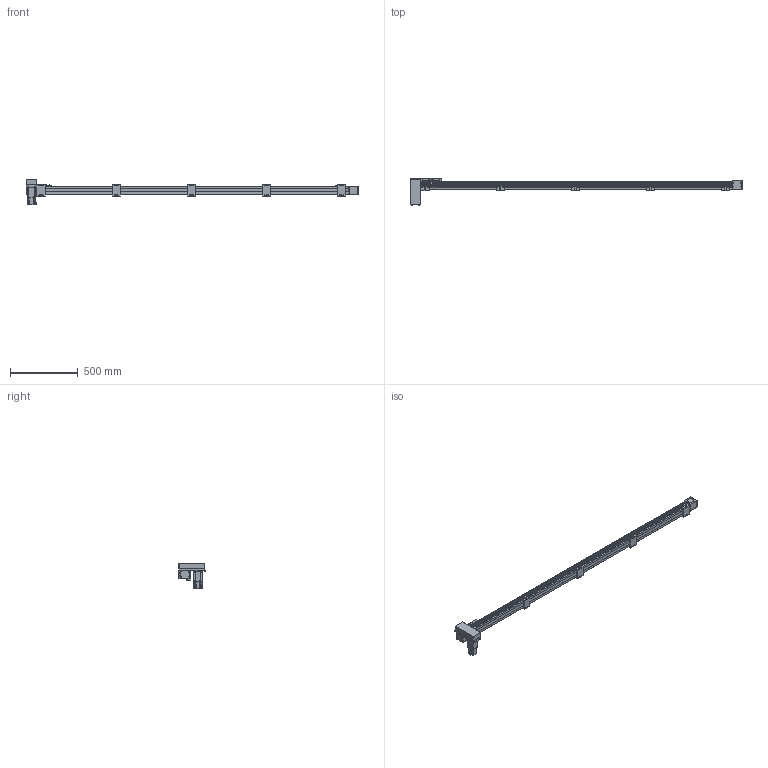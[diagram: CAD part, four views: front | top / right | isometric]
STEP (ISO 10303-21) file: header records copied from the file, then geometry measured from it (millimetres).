
FILE_DESCRIPTION(/* description */ ('STEP AP214'),/* implementation_level */ '2;1');
FILE_NAME(/* name */ 'SK60-P13-S2150-RD-T40-C1-N(0)',/* time_stamp */ '2023-04-06T04:56:44+02:00',/* author */ ('License CC BY-ND 4.0'),/* organization */ ('CADENAS'),/* preprocessor_version */ 'ST-DEVELOPER v19.3',/* originating_system */ 'PARTsolutions',/* authorisation */ ' ');
FILE_SCHEMA (('AUTOMOTIVE_DESIGN {1 0 10303 214 3 1 1}'));
Length unit declared in the file: millimetre
Products named in the file (10): SK60-P13-S2150-RD-T40-C1-N(0); PSC140-sensor; SK60-S450_seat; SK60-S450-BL-C1_slider; SK60_body3; SK60_body6; SK60-BL_body2; T40-p1; SK60-RD_fb; SK60-S2150-RD-C1_body
Assembly tree (19 placements, depth 2):
  SK60-P13-S2150-RD-T40-C1-N(0)
    PSC140-sensor  x3
    SK60-S450_seat  x5
    SK60-S450-BL-C1_slider
    SK60_body3  x3
    SK60_body6  x2
    SK60-BL_body2  x2
    T40-p1
    SK60-RD_fb
    SK60-S2150-RD-C1_body
Bounding box: 2455.5 x 199 x 189.7 mm (x, y, z)
Volume: 9554245.1 mm3; surface area: 1140861.7 mm2
Topology: 19 solids, 19 shells, 942 faces, 2342 edges, 1541 vertices
Faces by surface type: plane 596, cylinder 310, cone 34, torus 2
Full cylindrical faces by diameter (mm): 2.8 x3, 3.3 x4, 4 x2, 4.5 x30, 4.6 x3, 4.917 x28, 5 x6, 5.478 x4, 5.5 x31, 6.5 x10, 7 x2, 8 x4, 8.5 x4, 9.988 x4, 10 x20, 14 x1, 47 x3, 50 x2
Entity records: 18679 total; most frequent: DIRECTION 3190, CARTESIAN_POINT 3153, ORIENTED_EDGE 2940, EDGE_CURVE 1470, AXIS2_PLACEMENT_3D 1071, LINE 1048, VECTOR 1048, VERTEX_POINT 1034
